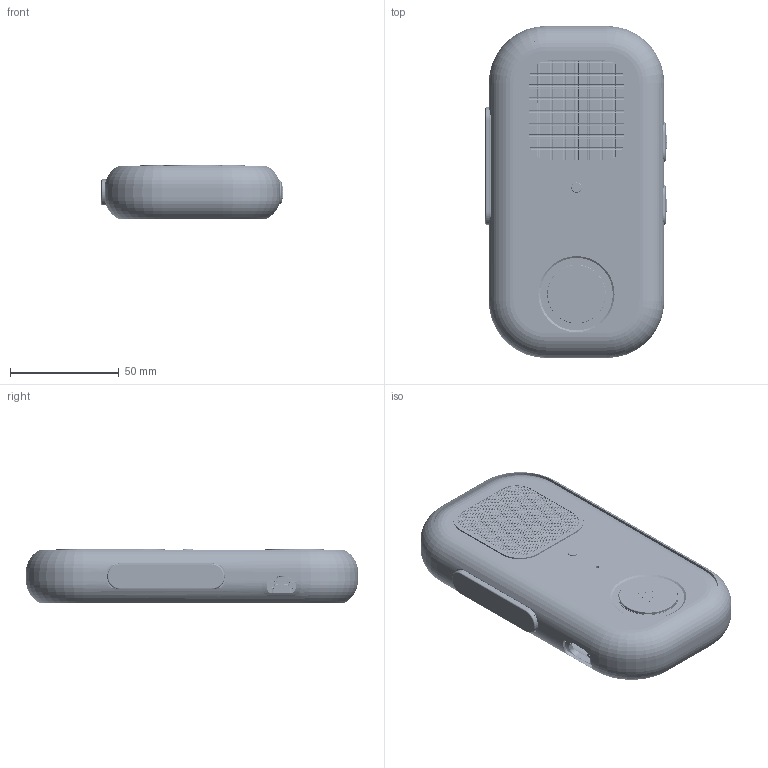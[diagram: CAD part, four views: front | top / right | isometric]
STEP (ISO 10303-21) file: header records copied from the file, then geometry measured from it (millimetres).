
FILE_DESCRIPTION(/* description */ ('Open CASCADE Model'),/* implementation_level */ '2;1');
FILE_NAME(/* name */ 'Walkie_One_28_R1_REFERENCE_ASSEMBLY.step',/* time_stamp */ '2026-09-10T13:08:20-07:00',/* author */ (''),/* organization */ (''),/* preprocessor_version */ 'ST-DEVELOPER v20.1',/* originating_system */ 'Autodesk Translation Framework v15.8.0.0',/* authorisation */ '');
FILE_SCHEMA (('AUTOMOTIVE_DESIGN { 1 0 10303 214 3 1 1 }'));
Products named in the file (354): Walkie_One_Concept_27_R2_REFERENCE_ASSEMBLY; C27_R2_01_Front_Shell_Chalk_Centered_Mic; C27_R2_02_Back_Shell_Chalk; C27_R2_03_Front_Action_Rigid_Carrier; C27_R2_04_Status_Lens; C27_R2_05_Front_Switch_Clamp; C27_R2_06_PTT_Rigid_Carrier; C27_R2_07_Volume_Up_Rigid_Carrier; C27_R2_08_Volume_Down_Rigid_Carrier; C27_R2_09_Warm_Grey_Elastomer_Rim; C27_R2_10_Front_Action_Pewter_Cap; C27_R2_11_Front_Action_Bond_Film; C27_R2_12_Volume_Up_Pewter_Cap; C27_R2_13_Volume_Up_Bond_Film; C27_R2_14_Volume_Down_Pewter_Cap; C27_R2_15_Volume_Down_Bond_Film; C27_R2_16_Orange_Ribbed_PTT_Grip; C27_R2_17_PTT_Bond_Film; C27_R2_PCB_Front_Seat_1; C27_R2_PCB_Rear_Preload_1; C27_R2_PCB_Front_Seat_2; C27_R2_PCB_Rear_Preload_2; C27_R2_PCB_Front_Seat_3; C27_R2_PCB_Rear_Preload_3; C27_R2_PCB_Front_Seat_4; C27_R2_PCB_Rear_Preload_4; C27_R2_Battery_Front_Pad_-1_1; C27_R2_Battery_Front_Pad_-1_2; C27_R2_Battery_Rear_Pad_-1; C27_R2_Battery_Side_Liner_-1; C27_R2_Battery_Front_Pad_1; C27_R2_Battery_Rear_Pad_1; C27_R2_Battery_Side_Liner_1; C27_R2_Battery_Lower_Liner; C27_R2_Battery_Upper_Liner_-1; C27_R2_Battery_Upper_Liner_1; C27_R2_Speaker_Front_Gasket; C27_R2_Speaker_Frame_Gasket; C27_R2_Speaker_Acoustic_Mesh; C27_R2_Speaker_Ear_Keeper_1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
Assembly tree (459 placements, depth 3):
  Walkie_One_Concept_27_R2_REFERENCE_ASSEMBLY
    C27_R2_01_Front_Shell_Chalk_Centered_Mic
    C27_R2_02_Back_Shell_Chalk
    C27_R2_03_Front_Action_Rigid_Carrier
    C27_R2_04_Status_Lens
    C27_R2_05_Front_Switch_Clamp
    C27_R2_06_PTT_Rigid_Carrier
    C27_R2_07_Volume_Up_Rigid_Carrier
    C27_R2_08_Volume_Down_Rigid_Carrier
    C27_R2_09_Warm_Grey_Elastomer_Rim
    C27_R2_10_Front_Action_Pewter_Cap
    C27_R2_11_Front_Action_Bond_Film
    C27_R2_12_Volume_Up_Pewter_Cap
    C27_R2_13_Volume_Up_Bond_Film
    C27_R2_14_Volume_Down_Pewter_Cap
    C27_R2_15_Volume_Down_Bond_Film
    C27_R2_16_Orange_Ribbed_PTT_Grip
    C27_R2_17_PTT_Bond_Film
    C27_R2_PCB_Front_Seat_1
    C27_R2_PCB_Rear_Preload_1
    C27_R2_PCB_Front_Seat_2
    C27_R2_PCB_Rear_Preload_2
    C27_R2_PCB_Front_Seat_3
    C27_R2_PCB_Rear_Preload_3
    C27_R2_PCB_Front_Seat_4
    C27_R2_PCB_Rear_Preload_4
    C27_R2_Battery_Front_Pad_-1_1
    C27_R2_Battery_Front_Pad_-1_2
    C27_R2_Battery_Rear_Pad_-1
    C27_R2_Battery_Side_Liner_-1
    C27_R2_Battery_Front_Pad_1
    C27_R2_Battery_Rear_Pad_1
    C27_R2_Battery_Side_Liner_1
    C27_R2_Battery_Lower_Liner
    C27_R2_Battery_Upper_Liner_-1
    C27_R2_Battery_Upper_Liner_1
    C27_R2_Speaker_Front_Gasket
    C27_R2_Speaker_Frame_Gasket
    C27_R2_Speaker_Acoustic_Mesh
    C27_R2_Speaker_Ear_Keeper_1
    C27_R2_Speaker_Ear_Preload_1
    C27_R2_Speaker_Ear_Keeper_2
    C27_R2_Speaker_Ear_Preload_2
    C27_R2_Microphone_Removable_Keeper
    C27_R2_Microphone_Rear_Preload
    C27_R2_Mic_Front_Seat_1
    C27_R2_Mic_Front_Seat_2
    C27_R2_Mic_Front_Seat_3
    C27_R2_Mic_Front_Seat_4
    C27_R2_Microphone_Acoustic_Seal
    C27_R2_Microphone_Acoustic_Membrane
    C27_R2_LED_Horizontal_Removable_Keeper
    C27_R2_LED_Saddle_Pad_1
    C27_R2_LED_Saddle_Pad_2
    C27_R2_Internal_Right_Angle_Light_Coupler
    C27_R2_Optical_Coupling_Film
    C27_R2_LTE_Lower_Service_Frame
    C27_R2_LTE_Upper_Service_Frame
    C27_R2_LTE_Soft_Stop_-1_1
    C27_R2_LTE_Soft_Stop_-1_2
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Bounding box: 83.35 x 152.7 x 24.74 mm (x, y, z)
Volume: 117494 mm3; surface area: 168253.5 mm2
Topology: 540 solids, 545 shells, 24755 faces, 52591 edges, 29200 vertices
Faces by surface type: plane 19830, cylinder 2670, bspline 2028, torus 137, cone 63, sphere 27
Full cylindrical faces by diameter (mm): 0.157 x4, 0.18 x92, 0.3 x59, 0.375 x1, 0.4 x2, 0.45 x2, 0.5 x5, 0.75 x4, 0.813 x5, 0.9 x8, 1.2 x14, 1.5 x5, 1.567 x14, 1.7 x24, 1.8 x1, 1.9 x2, 2 x4, 2.013 x4, 2.1 x4, 2.2 x2, 2.3 x12, 2.6 x6, 2.8 x4, 2.9 x4, 3 x4, 4.2 x6, 4.7 x1, 4.9 x1, 5 x1, 5.3 x1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
Entity records: 589069 total; most frequent: CARTESIAN_POINT 131726, ORIENTED_EDGE 90058, DIRECTION 89834, EDGE_CURVE 45029, LINE 37208, VECTOR 37208, AXIS2_PLACEMENT_3D 26313, VERTEX_POINT 24240
